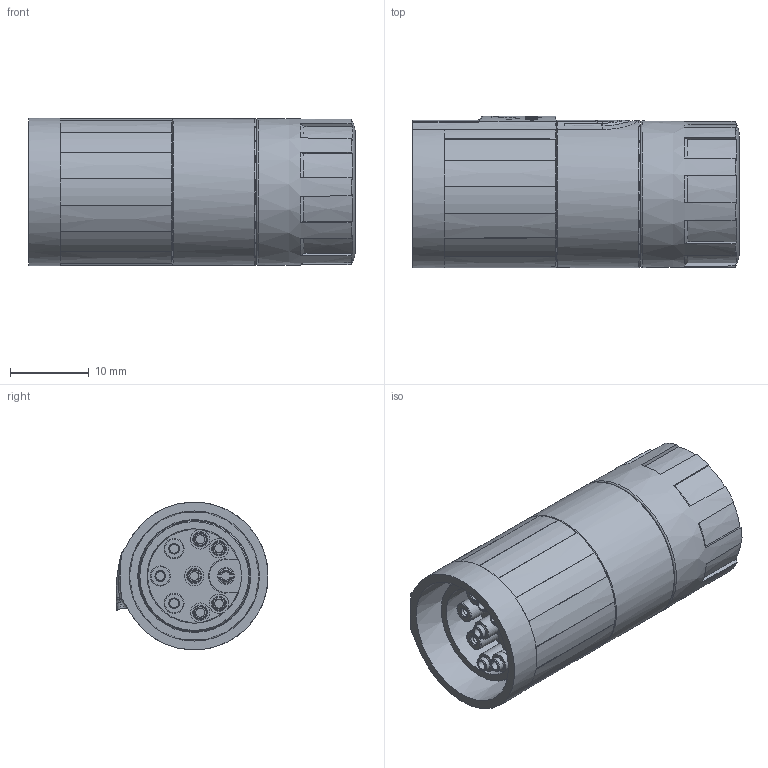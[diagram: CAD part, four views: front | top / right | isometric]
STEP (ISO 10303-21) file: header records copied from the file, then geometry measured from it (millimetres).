
FILE_DESCRIPTION((''),'2;1');
FILE_NAME('\\isfs02.intercontec.int.\desktop$\Apfelbeck\Desktop\EST_0500_9-polig.stp','2012-10-18T10:17:29',('apfelbeck'),(''),'Autodesk Inventor 2011','Autodesk Inventor 2011','');
FILE_SCHEMA(('AUTOMOTIVE_DESIGN { 1 0 10303 214 1 1 1 1 }'));
Length unit declared in the file: millimetre
Products named in the file (1): 120882
Bounding box: 41.35 x 19.24 x 18.7 mm (x, y, z)
Volume: 9528.2 mm3; surface area: 5033.5 mm2
Topology: 1 solids, 1 shells, 372 faces, 879 edges, 564 vertices
Faces by surface type: plane 162, cylinder 87, bspline 50, cone 42, torus 30, sphere 1
Full cylindrical faces by diameter (mm): 1.15 x10, 1.7 x5, 1.8 x5, 1.85 x3, 2.397 x1, 2.45 x5, 2.459 x1, 2.55 x3, 12.97 x2, 13.65 x1, 13.77 x1, 14.248 x1, 14.3 x1, 17.954 x1, 18.6 x1
Entity records: 12158 total; most frequent: CARTESIAN_POINT 3869, ORIENTED_EDGE 1576, DIRECTION 1554, EDGE_CURVE 788, AXIS2_PLACEMENT_3D 651, VERTEX_POINT 549, EDGE_LOOP 501, FACE_OUTER_BOUND 371
